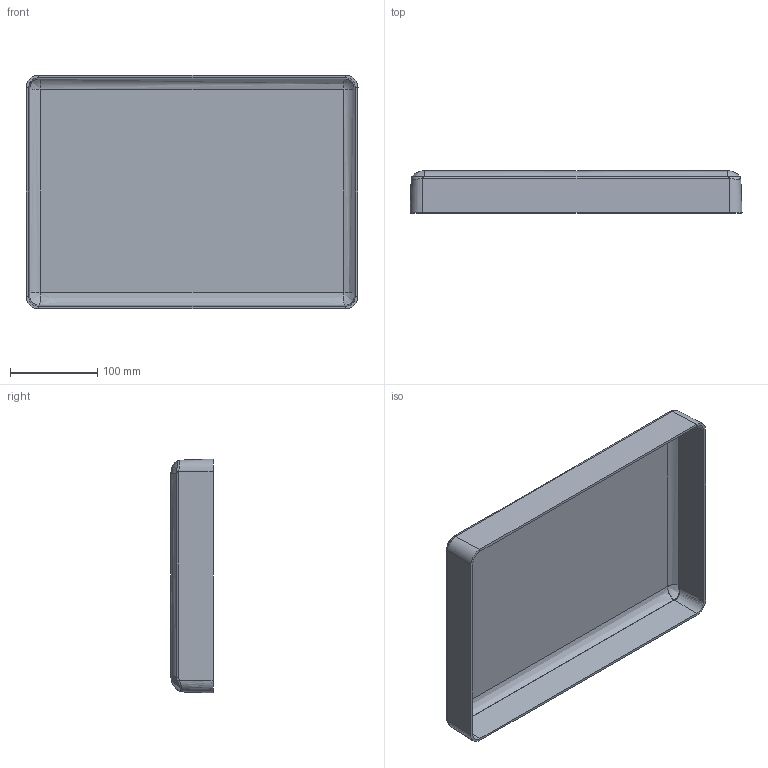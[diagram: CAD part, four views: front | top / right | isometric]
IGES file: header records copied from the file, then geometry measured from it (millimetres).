
Start section: SolidWorks IGES file using analytic representation for surfaces
Global section: file name: C:\temp\EU files dimensions 12-14-15\EU case files in pdf and DXF format\1450 Peli Case Top.IGS; native system: SolidWorks 2014; preprocessor: SolidWorks 2014; author: mhakami; date: 160110.174929; units: inch
Bounding box: 379.47 x 48.26 x 267.46 mm (x, y, z)
Surface area: 303564.4 mm2 (no closed solid volume)
Topology: 0 solids, 0 shells, 76 faces, 516 edges, 508 vertices
Faces by surface type: bspline 48, revolution 28
